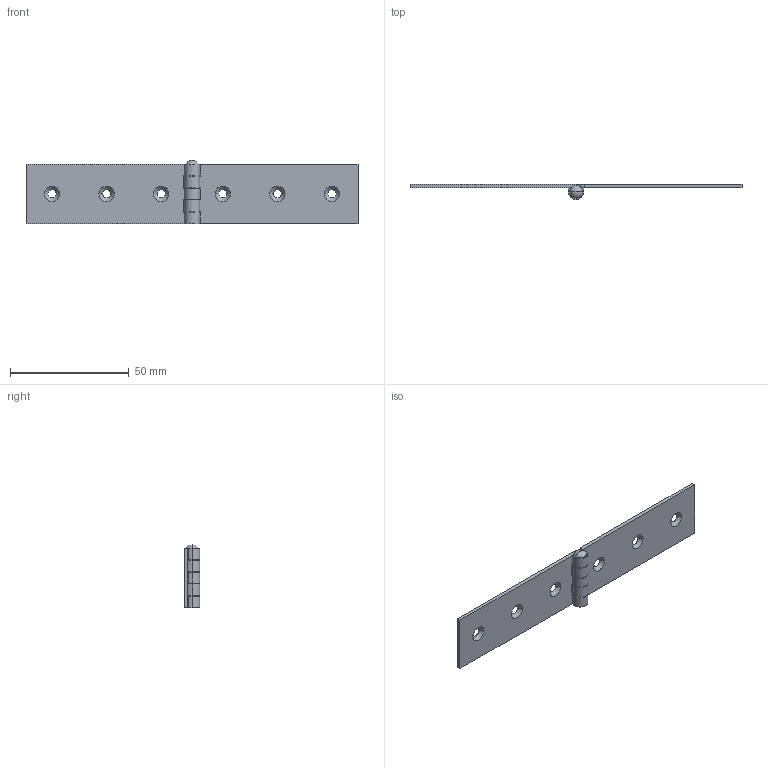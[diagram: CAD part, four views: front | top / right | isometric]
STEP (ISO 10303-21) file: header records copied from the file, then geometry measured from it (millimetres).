
FILE_DESCRIPTION((''),'2;1');
FILE_NAME('6016.01.stp','2015-07-17T15:50:26',(''),(''),'Mechanical Desktop 2006','Mechanical Desktop 2006',', , ');
FILE_SCHEMA(('CONFIG_CONTROL_DESIGN'));
Length unit declared in the file: millimetre
Products named in the file (1): 6016.01
Bounding box: 140 x 6.5 x 26.6 mm (x, y, z)
Volume: 5655.7 mm3; surface area: 8321.8 mm2
Topology: 2 solids, 2 shells, 74 faces, 217 edges, 144 vertices
Faces by surface type: plane 30, cylinder 28, cone 14, sphere 2
Entity records: 2603 total; most frequent: DIRECTION 460, CARTESIAN_POINT 432, ORIENTED_EDGE 428, EDGE_CURVE 214, AXIS2_PLACEMENT_3D 171, VERTEX_POINT 143, VECTOR 118, LINE 118
